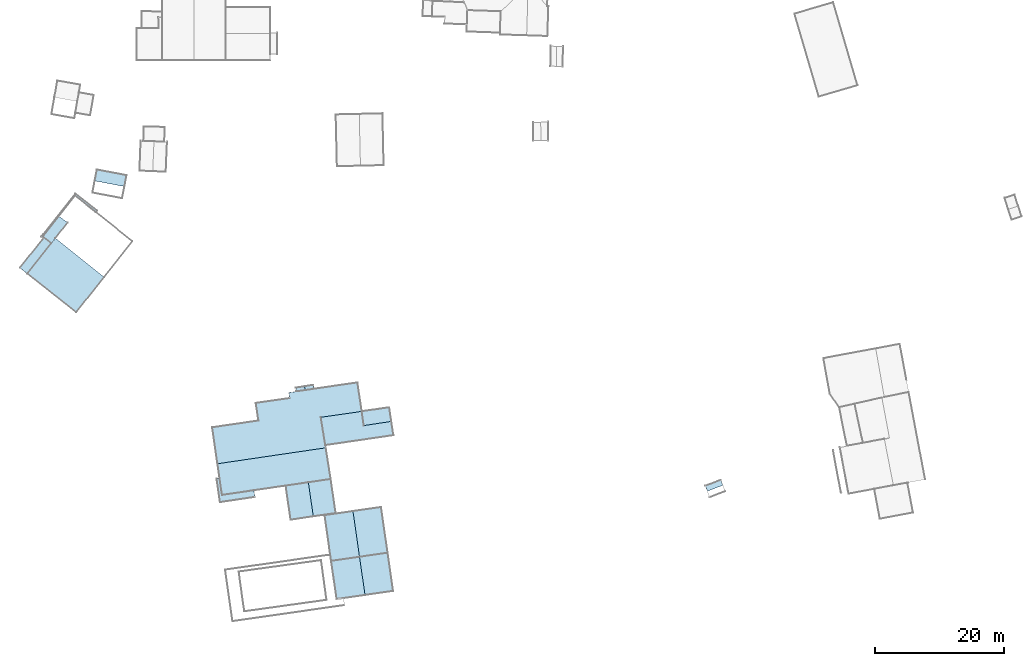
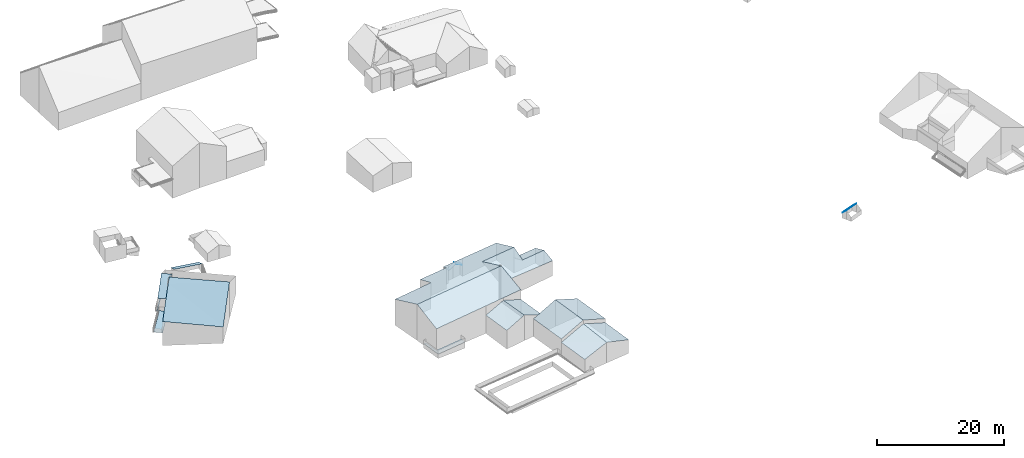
# Not in any storey, part 54 of 59: 18 roofs.
"""IFC4 building model written with IfcOpenShell, lengths in metres."""

from ifc_helpers import new_model, entity, si_unit, converted_unit, origin, place, context, subcontext, project, spatial, face_set, surface_model, element, save


model = new_model("IFC4")

# Units and contexts
model_context = context("Model", 3, precision=1e-05, world=origin())
body_context = subcontext(model_context, "Body", "Model", "MODEL_VIEW")
ifc_project = project(units=[converted_unit("PLANEANGLEUNIT", "DEGREE", entity("IfcRatioMeasure", 0.0174532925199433), si_unit("PLANEANGLEUNIT", "RADIAN"), dimensions=[0, 0, 0, 0, 0, 0, 0]), si_unit("AREAUNIT", "SQUARE_METRE"), si_unit("LENGTHUNIT", "METRE")], contexts=[model_context])

# Site, building
site_placement = place(None, origin())
site = spatial("IfcSite", under=ifc_project, at=site_placement, Name="_site")
building_1_placement = place(site_placement, origin())
building_1 = spatial("IfcBuilding", under=site, at=building_1_placement, Name="_building")

# Roofs
roof_1_placement = place(building_1_placement, origin())
element("IfcRoof", 1, at=roof_1_placement, inside=building_1, Name="Roof", PredefinedType="NOTDEFINED", context=body_context, shape_type="SurfaceModel", body=[
    surface_model("IfcFaceBasedSurfaceModel", [(51.649, 67.651, 219.06), (51.02, 66.859, 218.52), (47.3, 62.16, 215.32), (54.88, 56.16, 215.26), (59.2, 61.619, 219.13)], [face_set([[[0, 1, 2, 3, 4]]])]),
])
roof_2_placement = place(building_1_placement, origin())
element("IfcRoof", 2, at=roof_2_placement, inside=building_1, Name="Roof", PredefinedType="NOTDEFINED", context=body_context, shape_type="SurfaceModel", body=[
    surface_model("IfcFaceBasedSurfaceModel", [(57.93, 71.641, 213.14), (58.13, 71.891, 213.14), (54.75, 74.561, 213.14), (49.44, 67.84, 213.14), (49.76, 67.59, 213.14), (46.17, 63.051, 213.14), (47.3, 62.16, 213.14), (51.02, 66.859, 213.14), (49.71, 67.891, 213.14), (54.7, 74.199, 213.14)], [face_set([[[0, 1, 2, 3, 4, 5, 6, 7, 8, 9]]])]),
])
roof_3_placement = place(building_1_placement, origin())
element("IfcRoof", 3, at=roof_3_placement, inside=building_1, Name="Roof", PredefinedType="NOTDEFINED", context=body_context, shape_type="SurfaceModel", body=[
    surface_model("IfcFaceBasedSurfaceModel", [(52.21, 71.051, 217.54), (49.71, 67.891, 215.44), (51.02, 66.859, 215.56), (51.649, 67.651, 216.039), (53.55, 70.051, 217.49)], [face_set([[[0, 1, 2, 3, 4]]])]),
])

# Building
building_2_placement = place(site_placement, origin())
building_2 = spatial("IfcBuilding", under=site, at=building_2_placement, Name="_building")

# Roof
roof_4_placement = place(building_2_placement, origin())
element("IfcRoof", 4, at=roof_4_placement, inside=building_2, Name="Roof", PredefinedType="NOTDEFINED", context=body_context, shape_type="SurfaceModel", body=[
    surface_model("IfcFaceBasedSurfaceModel", [(155.03, 29.381, 220.29), (154.72, 30.199, 219.46), (152.32, 29.289, 219.46), (152.64, 28.471, 220.29)], [face_set([[[0, 1, 2, 3]]])]),
])

# Building
building_3_placement = place(site_placement, origin())
building_3 = spatial("IfcBuilding", under=site, at=building_3_placement, Name="_building")

# Roofs
roof_5_placement = place(building_3_placement, origin())
element("IfcRoof", 5, at=roof_5_placement, inside=building_3, Name="Roof", PredefinedType="NOTDEFINED", context=body_context, shape_type="SurfaceModel", body=[
    surface_model("IfcFaceBasedSurfaceModel", [(76.77, 32.721, 226.17), (77.48, 27.869, 224.14), (87.34, 29.311, 224.24), (90.83, 29.82, 224.275), (94.31, 30.33, 224.31), (93.54, 35.189, 226.25)], [face_set([[[0, 1, 2, 3, 4, 5]]])]),
])
roof_6_placement = place(building_3_placement, origin())
element("IfcRoof", 6, at=roof_6_placement, inside=building_3, Name="Roof", PredefinedType="NOTDEFINED", context=body_context, shape_type="SurfaceModel", body=[
    surface_model("IfcFaceBasedSurfaceModel", [(99.43, 38.631, 223.23), (99.11, 40.83, 224.47), (92.78, 39.92, 224.45), (93.47, 35.58, 222.63), (104.02, 37.131, 222.38), (103.69, 39.279, 223.23)], [face_set([[[0, 1, 2, 3, 4, 5]]])]),
])
roof_7_placement = place(building_3_placement, origin())
element("IfcRoof", 7, at=roof_7_placement, inside=building_3, Name="Roof", PredefinedType="NOTDEFINED", context=body_context, shape_type="SurfaceModel", body=[
    surface_model("IfcFaceBasedSurfaceModel", [(90.83, 29.82, 223.79), (87.34, 29.311, 222.44), (88.11, 24.039, 222.42), (91.6, 24.551, 223.87)], [face_set([[[0, 1, 2, 3]]])]),
])
roof_8_placement = place(building_3_placement, origin())
element("IfcRoof", 8, at=roof_8_placement, inside=building_3, Name="Roof", PredefinedType="NOTDEFINED", context=body_context, shape_type="SurfaceModel", body=[
    surface_model("IfcFaceBasedSurfaceModel", [(91.6, 24.551, 223.87), (95.08, 25.051, 222.42), (94.31, 30.33, 222.44), (90.83, 29.82, 223.79)], [face_set([[[0, 1, 2, 3]]])]),
])
roof_9_placement = place(building_3_placement, origin())
element("IfcRoof", 9, at=roof_9_placement, inside=building_3, Name="Roof", PredefinedType="NOTDEFINED", context=body_context, shape_type="SurfaceModel", body=[
    surface_model("IfcFaceBasedSurfaceModel", [(103.69, 39.279, 223.23), (103.37, 41.43, 222.43), (99.11, 40.83, 222.44), (99.43, 38.631, 223.23)], [face_set([[[0, 1, 2, 3]]])]),
])
roof_10_placement = place(building_3_placement, origin())
element("IfcRoof", 10, at=roof_10_placement, inside=building_3, Name="Roof", PredefinedType="NOTDEFINED", context=body_context, shape_type="SurfaceModel", body=[
    surface_model("IfcFaceBasedSurfaceModel", [(82.4, 28.59, 220.02), (77.48, 27.869, 220.02), (77.1, 30.49, 220.02), (76.63, 30.43, 220.02), (77.16, 26.76, 220.02), (82.55, 27.551, 220.02)], [face_set([[[0, 1, 2, 3, 4, 5]]])]),
])
roof_11_placement = place(building_3_placement, origin())
element("IfcRoof", 11, at=roof_11_placement, inside=building_3, Name="Roof", PredefinedType="NOTDEFINED", context=body_context, shape_type="SurfaceModel", body=[
    surface_model("IfcFaceBasedSurfaceModel", [(90.34, 44.102, 222.28), (91.7, 44.301, 221.59), (91.61, 44.91, 221.59), (90.24, 44.699, 222.28)], [face_set([[[0, 1, 2, 3]]])]),
])
roof_12_placement = place(building_3_placement, origin())
element("IfcRoof", 12, at=roof_12_placement, inside=building_3, Name="Roof", PredefinedType="NOTDEFINED", context=body_context, shape_type="SurfaceModel", body=[
    surface_model("IfcFaceBasedSurfaceModel", [(90.24, 44.699, 222.28), (88.88, 44.49, 221.59), (88.97, 43.91, 221.59), (90.34, 44.102, 222.28)], [face_set([[[0, 1, 2, 3]]])]),
])
roof_13_placement = place(building_3_placement, origin())
element("IfcRoof", 13, at=roof_13_placement, inside=building_3, Name="Roof", PredefinedType="NOTDEFINED", context=body_context, shape_type="SurfaceModel", body=[
    surface_model("IfcFaceBasedSurfaceModel", [(99.11, 40.83, 224.47), (98.46, 45.289, 222.8), (91.7, 44.301, 222.82), (90.34, 44.102, 222.825), (88.97, 43.91, 222.83), (87.81, 43.74, 222.83), (87.93, 42.869, 223.19), (82.72, 42.109, 223.19), (83.12, 39.391, 224.1), (75.95, 38.34, 224.03), (76.77, 32.721, 226.17), (93.54, 35.189, 226.25), (93.47, 35.58, 226.1), (92.78, 39.92, 224.45)], [face_set([[[0, 1, 2, 3, 4, 5, 6, 7, 8, 9, 10, 11, 12, 13]]])]),
])

# Building
building_4_placement = place(site_placement, origin())
building_4 = spatial("IfcBuilding", under=site, at=building_4_placement, Name="_building")

# Roofs
roof_14_placement = place(building_4_placement, origin())
element("IfcRoof", 14, at=roof_14_placement, inside=building_4, Name="Roof", PredefinedType="NOTDEFINED", context=body_context, shape_type="SurfaceModel", body=[
    surface_model("IfcFaceBasedSurfaceModel", [(97.74, 25.359, 224.2), (93.37, 24.73, 222.41), (94.38, 17.65, 222.47), (98.76, 18.279, 224.2)], [face_set([[[0, 1, 2, 3]]])]),
])
roof_15_placement = place(building_4_placement, origin())
element("IfcRoof", 15, at=roof_15_placement, inside=building_4, Name="Roof", PredefinedType="NOTDEFINED", context=body_context, shape_type="SurfaceModel", body=[
    surface_model("IfcFaceBasedSurfaceModel", [(98.76, 18.279, 224.2), (103.13, 18.91, 222.55), (102.11, 25.99, 222.49), (97.74, 25.359, 224.2)], [face_set([[[0, 1, 2, 3]]])]),
])
roof_16_placement = place(building_4_placement, origin())
element("IfcRoof", 16, at=roof_16_placement, inside=building_4, Name="Roof", PredefinedType="NOTDEFINED", context=body_context, shape_type="SurfaceModel", body=[
    surface_model("IfcFaceBasedSurfaceModel", [(98.76, 18.279, 223.47), (94.38, 17.65, 221.79), (95.24, 11.74, 221.78), (99.61, 12.369, 223.19)], [face_set([[[0, 1, 2, 3]]])]),
])
roof_17_placement = place(building_4_placement, origin())
element("IfcRoof", 17, at=roof_17_placement, inside=building_4, Name="Roof", PredefinedType="NOTDEFINED", context=body_context, shape_type="SurfaceModel", body=[
    surface_model("IfcFaceBasedSurfaceModel", [(99.61, 12.369, 223.19), (103.98, 13.0, 221.78), (103.13, 18.91, 221.8), (98.76, 18.279, 223.47)], [face_set([[[0, 1, 2, 3]]])]),
])

# Building
building_5_placement = place(site_placement, origin())
building_5 = spatial("IfcBuilding", under=site, at=building_5_placement, Name="_building")

# Roof
roof_18_placement = place(building_5_placement, origin())
element("IfcRoof", 18, at=roof_18_placement, inside=building_5, Name="Roof", PredefinedType="NOTDEFINED", context=body_context, shape_type="SurfaceModel", body=[
    surface_model("IfcFaceBasedSurfaceModel", [(62.35, 75.65, 213.03), (62.68, 77.381, 212.18), (58.08, 78.26, 212.18), (57.75, 76.529, 213.03)], [face_set([[[0, 1, 2, 3]]])]),
])

save(model, "model.ifc")
